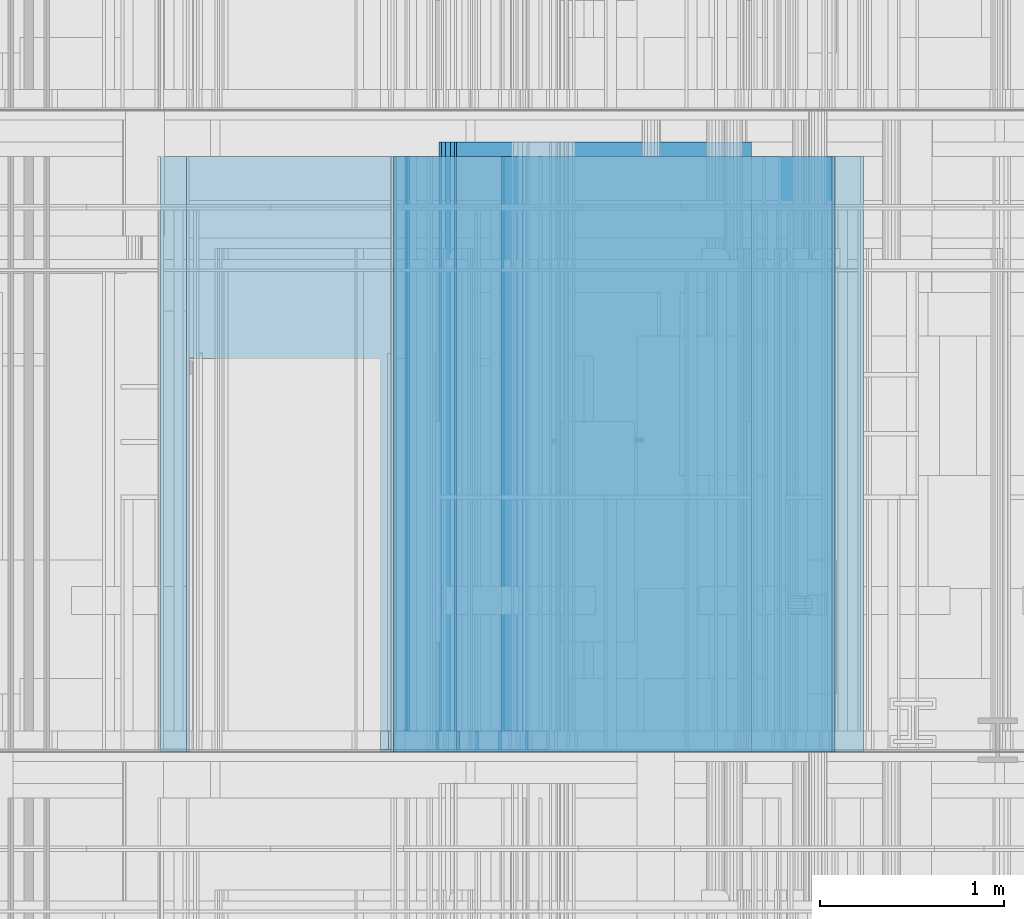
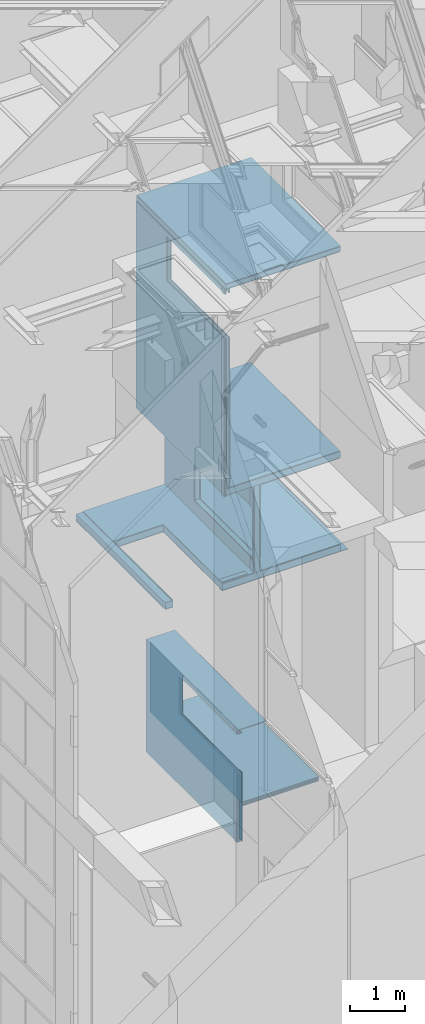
# One storey, part 78 of 583: 33 building element parts, 7 openings, 8 elements without a shape of their own.
"""IFC2X3 building model written with IfcOpenShell, lengths in metres."""

import ifcopenshell
import ifcopenshell.guid

model = None  # the IFC model being written
_history = None  # IfcOwnerHistory: only IFC2X3 demands one
_inside = {}  # id of a spatial element -> (the spatial element, [elements in it])
_under = {}  # id of a project, library or spatial element -> (it, [spatial elements below it])
_declared = {}  # id of a project -> (the project, [libraries it declares])
_typed = {}  # id of a type object -> (the type object, [elements of that type])
_made_of = {}  # id of a material, layer set ... -> (it, [elements and type objects made of it])


def new_model(schema):
    """Start an empty IFC model of exactly this schema.

    Asked for "IFC4X3", IfcOpenShell would pick the latest addendum, in which some entities
    have other attributes; the version numbers below select the first issue.
    IFC2X3 requires an IfcOwnerHistory on every rooted entity: one is made here for all.
    """
    global model, _history
    if schema == "IFC4X3":
        model = ifcopenshell.file(schema_version=(4, 3, 0, 0))
    else:
        model = ifcopenshell.file(schema=schema)
    _inside.clear()
    _under.clear()
    _declared.clear()
    _typed.clear()
    _made_of.clear()
    _history = None
    if model.schema == "IFC2X3":
        org = make("IfcOrganization", Name="unknown")
        user = make(
            "IfcPersonAndOrganization",
            ThePerson=make("IfcPerson", FamilyName="unknown"),
            TheOrganization=org,
        )
        app = make(
            "IfcApplication",
            ApplicationDeveloper=org,
            Version="unknown",
            ApplicationFullName="unknown",
            ApplicationIdentifier="unknown",
        )
        _history = make(
            "IfcOwnerHistory",
            OwningUser=user,
            OwningApplication=app,
            ChangeAction="ADDED",
            CreationDate=0,
        )
    return model


def make(cls, **values):
    """One entity of the class cls with the attributes given. An attribute that is None is left unset."""
    return model.create_entity(
        cls, **{name: value for name, value in values.items() if value is not None}
    )


def entity(cls, *values):
    """Any entity or typed value of the class cls, its attributes in the order of the schema. None: left unset."""
    e = model.create_entity(cls)
    for i, value in enumerate(values):
        if value is not None:
            e[i] = value
    return e


def rooted(cls, **values):
    """An entity with a GlobalId (a new one), such as an element, a storey or a relation."""
    return make(cls, GlobalId=ifcopenshell.guid.new(), OwnerHistory=_history, **values)


def si_unit(unit_type, name, prefix=None):
    """IfcSIUnit, for example si_unit("LENGTHUNIT", "METRE", prefix="MILLI")."""
    return make("IfcSIUnit", UnitType=unit_type, Prefix=prefix, Name=name)


def converted_unit(unit_type, name, factor, base, dimensions=None, offset=None):
    """IfcConversionBasedUnit, such as the inch: factor (a typed value) times the base unit."""
    return make(
        "IfcConversionBasedUnit"
        if offset is None
        else "IfcConversionBasedUnitWithOffset",
        ConversionOffset=offset,
        Dimensions=None
        if dimensions is None
        else entity("IfcDimensionalExponents", *dimensions),
        UnitType=unit_type,
        Name=name,
        ConversionFactor=make(
            "IfcMeasureWithUnit", ValueComponent=factor, UnitComponent=base
        ),
    )


def derived_unit(unit_type, elements):
    """IfcDerivedUnit: a product of units, each with its exponent."""
    return make(
        "IfcDerivedUnit",
        Elements=[
            make("IfcDerivedUnitElement", Unit=unit, Exponent=power)
            for unit, power in elements
        ],
        UnitType=unit_type,
    )


def money_unit(currency):
    """IfcMonetaryUnit."""
    return make("IfcMonetaryUnit", Currency=currency)


def assignment(units):
    """IfcUnitAssignment: the units of a project."""
    return None if units is None else make("IfcUnitAssignment", Units=units)


def point(xyz):
    """IfcCartesianPoint."""
    return None if xyz is None else make("IfcCartesianPoint", Coordinates=xyz)


def direction(xyz):
    """IfcDirection."""
    return None if xyz is None else make("IfcDirection", DirectionRatios=xyz)


def frame(location, z_axis=None, x_axis=None):
    """IfcAxis2Placement3D, a coordinate frame: its origin and axes. An axis left out is left unset."""
    return make(
        "IfcAxis2Placement3D",
        Location=point(location),
        Axis=direction(z_axis),
        RefDirection=direction(x_axis),
    )


def frame_2d(location, x_axis=None):
    """IfcAxis2Placement2D, a coordinate frame in the plane: its origin and x axis."""
    return make(
        "IfcAxis2Placement2D", Location=point(location), RefDirection=direction(x_axis)
    )


def origin_with_axes():
    """The frame at (0, 0, 0) with the z axis (0, 0, 1) and the x axis (1, 0, 0) written out."""
    return frame((0.0, 0.0, 0.0), z_axis=(0.0, 0.0, 1.0), x_axis=(1.0, 0.0, 0.0))


def place(relative_to, where):
    """IfcLocalPlacement: puts the frame where relative to a parent placement (None: the world)."""
    return make(
        "IfcLocalPlacement", PlacementRelTo=relative_to, RelativePlacement=where
    )


def context(
    kind, dimensions, precision=None, world=None, true_north=None, identifier=None
):
    """IfcGeometricRepresentationContext, for example the 3D "Model" context."""
    return make(
        "IfcGeometricRepresentationContext",
        ContextIdentifier=identifier,
        ContextType=kind,
        CoordinateSpaceDimension=dimensions,
        Precision=precision,
        WorldCoordinateSystem=world,
        TrueNorth=true_north,
    )


def subcontext(parent, identifier, kind, view, scale=None):
    """IfcGeometricRepresentationSubContext, for example "Body" below "Model"."""
    return make(
        "IfcGeometricRepresentationSubContext",
        ContextIdentifier=identifier,
        ContextType=kind,
        ParentContext=parent,
        TargetScale=scale,
        TargetView=view,
    )


def project(units=None, contexts=None):
    """IfcProject with its units and contexts."""
    return rooted(
        "IfcProject",
        Name="project",
        RepresentationContexts=contexts,
        UnitsInContext=assignment(units),
    )


def spatial(cls, under=None, at=None, **own):
    """A site, building, storey or space (cls), placed at a placement, below another one or the project."""
    s = rooted(cls, ObjectPlacement=at, **own)
    if under is not None:
        _under.setdefault(under.id(), (under, []))[1].append(s)
    return s


def polyline(points):
    """IfcPolyline through the points."""
    return make("IfcPolyline", Points=[point(p) for p in points])


def profile(cls, at=None, kind="AREA", **sizes):
    """A parametric profile (cls). Its sizes go by their IFC names, for example OverallWidth=200.0."""
    return make(cls, ProfileType=kind, Position=at, **sizes)


def rectangle(**sizes):
    """IfcRectangleProfileDef."""
    return profile("IfcRectangleProfileDef", **sizes)


def outline(outer, holes=None, kind="AREA"):
    """IfcArbitraryClosedProfileDef: a profile drawn as a closed curve; with holes, ...WithVoids."""
    if holes is None:
        return make("IfcArbitraryClosedProfileDef", ProfileType=kind, OuterCurve=outer)
    return make(
        "IfcArbitraryProfileDefWithVoids",
        ProfileType=kind,
        OuterCurve=outer,
        InnerCurves=holes,
    )


def extrude(swept, where, along, depth):
    """IfcExtrudedAreaSolid: the profile swept, set in the frame where, extruded along a direction by depth."""
    return make(
        "IfcExtrudedAreaSolid",
        SweptArea=swept,
        Position=where,
        ExtrudedDirection=direction(along),
        Depth=depth,
    )


def shape(context_of_items, identifier, shape_type, items):
    """IfcShapeRepresentation: the items that make up one representation, for example the "Body"."""
    return make(
        "IfcShapeRepresentation",
        ContextOfItems=context_of_items,
        RepresentationIdentifier=identifier,
        RepresentationType=shape_type,
        Items=items,
    )


def material(Name=None, Category=None):
    """IfcMaterial."""
    return make("IfcMaterial", Name=Name, Category=Category)


def made_of(thing, what):
    """Note that an element or type object is made of a material, layer set ...; save() writes the relation."""
    if what is not None:
        _made_of.setdefault(what.id(), (what, []))[1].append(thing)
    return thing


def type_object(cls, material=None, **own):
    """A type object (cls), such as IfcWallType, which elements share."""
    return made_of(rooted(cls, **own), material)


def element(
    cls,
    number,
    at=None,
    inside=None,
    cuts=None,
    type_object=None,
    material=None,
    context=None,
    identifier="Body",
    shape_type=None,
    held_by="IfcProductDefinitionShape",
    body=None,
    shapes=None,
    **own,
):
    """One element of the class cls, such as IfcWall. Its Tag is "e" and its number.

    at: its placement. inside: the storey or other place that contains it. cuts: it is an
    opening in that element (IfcRelVoidsElement). A single representation is given by context,
    identifier, shape_type and body (its items); several are given by shapes. held_by: the class
    of the entity that holds the representations. save() writes the other relations.
    """
    e = rooted(cls, Tag="e%d" % number, ObjectPlacement=at, **own)
    if body is not None:
        shapes = [shape(context, identifier, shape_type, body)]
    if shapes is not None:
        e.Representation = make(held_by, Representations=shapes)
    if inside is not None:
        _inside.setdefault(inside.id(), (inside, []))[1].append(e)
    if cuts is not None:
        rooted(
            "IfcRelVoidsElement", RelatingBuildingElement=cuts, RelatedOpeningElement=e
        )
    if type_object is not None:
        _typed.setdefault(type_object.id(), (type_object, []))[1].append(e)
    return made_of(e, material)


def aggregate(whole, parts):
    """IfcRelAggregates: a whole, such as a stair, and the parts it consists of."""
    return rooted("IfcRelAggregates", RelatingObject=whole, RelatedObjects=parts)


def save(model, path):
    """Write the relations noted so far, then the file.

    IfcRelAggregates (storeys below a building ...), IfcRelContainedInSpatialStructure (elements
    in a storey), IfcRelDefinesByType, IfcRelAssociatesMaterial and IfcRelDeclares: one each for
    every whole, place, type object, material and project.
    """
    for whole, parts in _under.values():
        aggregate(whole, parts)
    for where, things in _inside.values():
        rooted(
            "IfcRelContainedInSpatialStructure",
            RelatedElements=things,
            RelatingStructure=where,
        )
    for kind, things in _typed.values():
        rooted("IfcRelDefinesByType", RelatedObjects=things, RelatingType=kind)
    for what, things in _made_of.values():
        rooted("IfcRelAssociatesMaterial", RelatedObjects=things, RelatingMaterial=what)
    for by, libraries in _declared.values():
        rooted("IfcRelDeclares", RelatingContext=by, RelatedDefinitions=libraries)
    model.write(path)


model = new_model("IFC2X3")

# Units and contexts
model_context = context("Model", 3, precision=1e-05, world=origin_with_axes(), true_north=direction((0.0, 1.0)))
body_context = subcontext(model_context, "Body", "Model", "MODEL_VIEW", scale=1.0)
ifc_project = project(units=[si_unit("LENGTHUNIT", "METRE"), si_unit("AREAUNIT", "SQUARE_METRE"), si_unit("VOLUMEUNIT", "CUBIC_METRE"), si_unit("ABSORBEDDOSEUNIT", "GRAY"), si_unit("AMOUNTOFSUBSTANCEUNIT", "MOLE"), si_unit("DOSEEQUIVALENTUNIT", "SIEVERT"), si_unit("ELECTRICCAPACITANCEUNIT", "FARAD"), si_unit("ELECTRICCHARGEUNIT", "COULOMB"), si_unit("ELECTRICCONDUCTANCEUNIT", "SIEMENS"), si_unit("ELECTRICCURRENTUNIT", "AMPERE"), si_unit("ELECTRICRESISTANCEUNIT", "OHM"), si_unit("ELECTRICVOLTAGEUNIT", "VOLT"), si_unit("ENERGYUNIT", "JOULE"), si_unit("FORCEUNIT", "NEWTON"), si_unit("FREQUENCYUNIT", "HERTZ"), si_unit("ILLUMINANCEUNIT", "LUX"), si_unit("INDUCTANCEUNIT", "HENRY"), si_unit("LUMINOUSFLUXUNIT", "LUMEN"), si_unit("LUMINOUSINTENSITYUNIT", "CANDELA"), si_unit("MAGNETICFLUXDENSITYUNIT", "TESLA"), si_unit("MAGNETICFLUXUNIT", "WEBER"), si_unit("MASSUNIT", "GRAM"), converted_unit("PLANEANGLEUNIT", "degree", entity("IfcReal", 0.0174532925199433), si_unit("PLANEANGLEUNIT", "RADIAN"), dimensions=[0, 0, 0, 0, 0, 0, 0]), si_unit("POWERUNIT", "WATT"), si_unit("PRESSUREUNIT", "PASCAL"), si_unit("RADIOACTIVITYUNIT", "BECQUEREL"), si_unit("SOLIDANGLEUNIT", "STERADIAN"), si_unit("THERMODYNAMICTEMPERATUREUNIT", "KELVIN"), si_unit("TIMEUNIT", "SECOND"), derived_unit("ACCELERATIONUNIT", [(si_unit("LENGTHUNIT", "METRE"), 1), (si_unit("TIMEUNIT", "SECOND"), -2)]), derived_unit("ANGULARVELOCITYUNIT", [(converted_unit("PLANEANGLEUNIT", "degree", entity("IfcReal", 0.0174532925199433), si_unit("PLANEANGLEUNIT", "RADIAN"), dimensions=[0, 0, 0, 0, 0, 0, 0]), 1), (si_unit("TIMEUNIT", "SECOND"), -1)]), derived_unit("CURVATUREUNIT", [(converted_unit("PLANEANGLEUNIT", "degree", entity("IfcReal", 0.0174532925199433), si_unit("PLANEANGLEUNIT", "RADIAN"), dimensions=[0, 0, 0, 0, 0, 0, 0]), 1), (si_unit("LENGTHUNIT", "METRE"), -1)]), derived_unit("DYNAMICVISCOSITYUNIT", [(si_unit("PRESSUREUNIT", "PASCAL"), 1), (si_unit("TIMEUNIT", "SECOND"), 1)]), derived_unit("HEATFLUXDENSITYUNIT", [(si_unit("POWERUNIT", "WATT"), 1), (si_unit("LENGTHUNIT", "METRE"), -2)]), derived_unit("HEATINGVALUEUNIT", [(si_unit("ENERGYUNIT", "JOULE"), 1), (si_unit("MASSUNIT", "GRAM"), -1)]), derived_unit("INTEGERCOUNTRATEUNIT", [(si_unit("TIMEUNIT", "SECOND"), -1)]), derived_unit("IONCONCENTRATIONUNIT", [(si_unit("MASSUNIT", "GRAM"), 1), (si_unit("VOLUMEUNIT", "CUBIC_METRE"), -1)]), derived_unit("ISOTHERMALMOISTURECAPACITYUNIT", [(si_unit("VOLUMEUNIT", "CUBIC_METRE"), 1), (si_unit("MASSUNIT", "GRAM"), -1)]), derived_unit("KINEMATICVISCOSITYUNIT", [(si_unit("AREAUNIT", "SQUARE_METRE"), 1), (si_unit("TIMEUNIT", "SECOND"), -1)]), derived_unit("LINEARFORCEUNIT", [(si_unit("FORCEUNIT", "NEWTON"), 1), (si_unit("LENGTHUNIT", "METRE"), -1)]), derived_unit("LINEARMOMENTUNIT", [(si_unit("FORCEUNIT", "NEWTON"), 1), (si_unit("LENGTHUNIT", "METRE"), -1)]), derived_unit("LINEARSTIFFNESSUNIT", [(si_unit("FORCEUNIT", "NEWTON"), 1), (si_unit("LENGTHUNIT", "METRE"), -1)]), derived_unit("LINEARVELOCITYUNIT", [(si_unit("LENGTHUNIT", "METRE"), 1), (si_unit("TIMEUNIT", "SECOND"), -1)]), derived_unit("LUMINOUSINTENSITYDISTRIBUTIONUNIT", [(si_unit("LUMINOUSINTENSITYUNIT", "CANDELA"), 1), (si_unit("LUMINOUSFLUXUNIT", "LUMEN"), -1)]), derived_unit("MASSDENSITYUNIT", [(si_unit("MASSUNIT", "GRAM"), 1), (si_unit("VOLUMEUNIT", "CUBIC_METRE"), -1)]), derived_unit("MASSFLOWRATEUNIT", [(si_unit("MASSUNIT", "GRAM"), 1), (si_unit("TIMEUNIT", "SECOND"), -1)]), derived_unit("MASSPERLENGTHUNIT", [(si_unit("MASSUNIT", "GRAM"), 1), (si_unit("LENGTHUNIT", "METRE"), -1)]), derived_unit("MODULUSOFELASTICITYUNIT", [(si_unit("FORCEUNIT", "NEWTON"), 1), (si_unit("AREAUNIT", "SQUARE_METRE"), -1)]), derived_unit("MODULUSOFLINEARSUBGRADEREACTIONUNIT", [(si_unit("FORCEUNIT", "NEWTON"), 1), (si_unit("LENGTHUNIT", "METRE"), -2)]), derived_unit("MODULUSOFROTATIONALSUBGRADEREACTIONUNIT", [(si_unit("FORCEUNIT", "NEWTON"), 1), (si_unit("LENGTHUNIT", "METRE"), 1)]), derived_unit("MODULUSOFSUBGRADEREACTIONUNIT", [(si_unit("FORCEUNIT", "NEWTON"), 1), (si_unit("VOLUMEUNIT", "CUBIC_METRE"), -1)]), derived_unit("MOISTUREDIFFUSIVITYUNIT", [(si_unit("VOLUMEUNIT", "CUBIC_METRE"), 1), (si_unit("TIMEUNIT", "SECOND"), -1)]), derived_unit("MOLECULARWEIGHTUNIT", [(si_unit("MASSUNIT", "GRAM"), 1), (si_unit("AMOUNTOFSUBSTANCEUNIT", "MOLE"), -1)]), derived_unit("PLANARFORCEUNIT", [(si_unit("FORCEUNIT", "NEWTON"), 1), (si_unit("LENGTHUNIT", "METRE"), -2)]), derived_unit("ROTATIONALFREQUENCYUNIT", [(si_unit("TIMEUNIT", "SECOND"), -1)]), derived_unit("ROTATIONALMASSUNIT", [(si_unit("MASSUNIT", "GRAM"), 1), (si_unit("LENGTHUNIT", "METRE"), 2)]), derived_unit("ROTATIONALSTIFFNESSUNIT", [(si_unit("FORCEUNIT", "NEWTON"), 1), (si_unit("LENGTHUNIT", "METRE"), 1), (converted_unit("PLANEANGLEUNIT", "degree", entity("IfcReal", 0.0174532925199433), si_unit("PLANEANGLEUNIT", "RADIAN"), dimensions=[0, 0, 0, 0, 0, 0, 0]), -1)]), derived_unit("SECTIONAREAINTEGRALUNIT", [(si_unit("LENGTHUNIT", "METRE"), 5)]), derived_unit("SECTIONMODULUSUNIT", [(si_unit("LENGTHUNIT", "METRE"), 3)]), derived_unit("SHEARMODULUSUNIT", [(si_unit("FORCEUNIT", "NEWTON"), 1), (si_unit("AREAUNIT", "SQUARE_METRE"), -1)]), derived_unit("SOUNDPOWERUNIT", [(si_unit("ENERGYUNIT", "JOULE"), 1), (si_unit("TIMEUNIT", "SECOND"), -1)]), derived_unit("SPECIFICHEATCAPACITYUNIT", [(si_unit("FORCEUNIT", "NEWTON"), 1), (si_unit("MASSUNIT", "GRAM"), -1), (si_unit("THERMODYNAMICTEMPERATUREUNIT", "KELVIN"), -1)]), derived_unit("TEMPERATUREGRADIENTUNIT", [(si_unit("THERMODYNAMICTEMPERATUREUNIT", "KELVIN"), 1), (si_unit("LENGTHUNIT", "METRE"), -1)]), derived_unit("THERMALADMITTANCEUNIT", [(si_unit("POWERUNIT", "WATT"), 1), (si_unit("AREAUNIT", "SQUARE_METRE"), -1), (si_unit("THERMODYNAMICTEMPERATUREUNIT", "KELVIN"), -1)]), derived_unit("THERMALCONDUCTANCEUNIT", [(si_unit("POWERUNIT", "WATT"), 1), (si_unit("LENGTHUNIT", "METRE"), -1), (si_unit("THERMODYNAMICTEMPERATUREUNIT", "KELVIN"), -1)]), derived_unit("THERMALEXPANSIONCOEFFICIENTUNIT", [(si_unit("THERMODYNAMICTEMPERATUREUNIT", "KELVIN"), -1)]), derived_unit("THERMALRESISTANCEUNIT", [(si_unit("AREAUNIT", "SQUARE_METRE"), 1), (si_unit("POWERUNIT", "WATT"), -1)]), derived_unit("THERMALTRANSMITTANCEUNIT", [(si_unit("POWERUNIT", "WATT"), 1), (si_unit("AREAUNIT", "SQUARE_METRE"), -1), (si_unit("THERMODYNAMICTEMPERATUREUNIT", "KELVIN"), -1)]), derived_unit("TORQUEUNIT", [(si_unit("FORCEUNIT", "NEWTON"), 1), (si_unit("LENGTHUNIT", "METRE"), 1)]), derived_unit("VAPORPERMEABILITYUNIT", [(si_unit("MASSUNIT", "GRAM"), 1), (si_unit("TIMEUNIT", "SECOND"), -1)]), derived_unit("VOLUMETRICFLOWRATEUNIT", [(si_unit("VOLUMEUNIT", "CUBIC_METRE"), 1), (si_unit("TIMEUNIT", "SECOND"), -1)]), derived_unit("WARPINGCONSTANTUNIT", [(si_unit("LENGTHUNIT", "METRE"), 6)]), derived_unit("WARPINGMOMENTUNIT", [(si_unit("FORCEUNIT", "NEWTON"), 1), (si_unit("LENGTHUNIT", "METRE"), 2)]), money_unit("GBP")], contexts=[model_context])

# Site, building, storey
site_placement = place(None, origin_with_axes())
site = spatial("IfcSite", under=ifc_project, at=site_placement, Name="Site", CompositionType="ELEMENT")
building_placement = place(site_placement, origin_with_axes())
building = spatial("IfcBuilding", under=site, at=building_placement, Name="Building01", CompositionType="ELEMENT")
storey_placement = place(building_placement, frame((0.0, 0.0, 20.78), z_axis=(0.0, 0.0, 1.0), x_axis=(1.0, 0.0, 0.0)))
storey = spatial("IfcBuildingStorey", under=building, at=storey_placement, Name="RL", CompositionType="ELEMENT", Elevation=20.78)

# Wall, openings, building element parts
wall_type_1 = type_object("IfcWallType", Name="SHE_A-Walls_Type03a_BlockworkWall_170mm", PredefinedType="NOTDEFINED")
wall_1_placement = place(storey_placement, frame((8.665, 8.64, -11.705), z_axis=(0.0, 1.0, 0.0), x_axis=(-1.0, 0.0, 0.0)))
wall_1 = element("IfcWall", 1, at=wall_1_placement, inside=storey, type_object=wall_type_1, Name="4B", ObjectType="SHE_A-Walls_Type03a_BlockworkWall_170mm")
opening_1_placement = place(wall_1_placement, frame((2.527281, 0.175, 0.0), z_axis=(0.0, 0.0, 1.0), x_axis=(1.0, 0.0, 0.0)))
element("IfcOpeningElement", 2, at=opening_1_placement, cuts=wall_1, Name="Opening", ObjectType="Opening", context=body_context, shape_type="SweptSolid", body=[
    extrude(rectangle(XDim=0.984, YDim=2.142, at=frame_2d((-0.492, 1.071), x_axis=(1.0, 0.0))), frame((0.0, -5.388555, 0.0), z_axis=(0.0, 1.0, 0.0), x_axis=(-1.0, 0.0, 0.0)), (0.0, 0.0, 1.0), 10.777109),
])
opening_2_placement = place(wall_1_placement, frame((2.473, 0.155, 0.0), z_axis=(0.0, 0.0, 1.0), x_axis=(1.0, 0.0, 0.0)))
element("IfcOpeningElement", 3, at=opening_2_placement, cuts=wall_1, Name="Opening", ObjectType="Opening", context=body_context, shape_type="SweptSolid", body=[
    extrude(rectangle(XDim=2.142, YDim=0.984, at=frame_2d((-0.492, 1.071), x_axis=(0.0, -1.0))), frame((0.0, -5.387814, 0.0), z_axis=(0.0, 1.0, 0.0), x_axis=(-1.0, 0.0, 0.0)), (0.0, 0.0, 1.0), 10.775627),
])
ifc_material_1 = material(Name="A_BSUK_WallsInternal_Block")
placement_1 = place(wall_1_placement, origin_with_axes())
building_element_part_1 = element("IfcBuildingElementPart", 4, at=placement_1, material=ifc_material_1, Name="1", context=body_context, shape_type="SweptSolid", body=[
    extrude(rectangle(XDim=3.67, YDim=0.14, at=frame_2d((1.835, 0.07), x_axis=(-1.0, 0.0))), origin_with_axes(), (0.0, 0.0, 1.0), 3.24),
])
ifc_material_2 = material(Name="A_BSUK_Walls_Timber")
building_element_part_2 = element("IfcBuildingElementPart", 5, at=placement_1, material=ifc_material_2, Name="2", context=body_context, shape_type="SweptSolid", body=[
    extrude(outline(polyline([(3.5, 0.17), (1.940919, 0.17), (1.955919, 0.155), (3.5, 0.155), (3.5, 0.17)])), frame((0.0, 0.0, 0.015), z_axis=(0.0, 0.0, 1.0), x_axis=(1.0, 0.0, 0.0)), (0.0, 0.0, 1.0), 0.1),
])
ifc_material_3 = material(Name="A_BSUK_WallInternal_Finishes_Plaster")
building_element_part_3 = element("IfcBuildingElementPart", 6, at=placement_1, material=ifc_material_3, Name="3", context=body_context, shape_type="SweptSolid", body=[
    extrude(rectangle(XDim=1.67, YDim=0.015, at=frame_2d((0.85, 0.1475), x_axis=(-1.0, 0.0))), origin_with_axes(), (0.0, 0.0, 1.0), 3.24),
])
ifc_material_4 = material(Name="A_BSUK_WallInternal_Finishes_Plasterboard")
building_element_part_4 = element("IfcBuildingElementPart", 7, at=placement_1, material=ifc_material_4, Name="4", context=body_context, shape_type="SweptSolid", body=[
    extrude(rectangle(XDim=3.825, YDim=0.015, at=frame_2d((1.7575, -0.0075), x_axis=(-1.0, 0.0))), origin_with_axes(), (0.0, 0.0, 1.0), 3.24),
])
building_element_part_5 = element("IfcBuildingElementPart", 8, at=placement_1, material=ifc_material_2, Name="5", context=body_context, shape_type="SweptSolid", body=[
    extrude(rectangle(XDim=1.883405, YDim=0.015, at=frame_2d((2.503298, -0.0225), x_axis=(-1.0, 0.0))), frame((0.0, 0.0, 0.015), z_axis=(0.0, 0.0, 1.0), x_axis=(1.0, 0.0, 0.0)), (0.0, 0.0, 1.0), 0.1),
])
building_element_part_6 = element("IfcBuildingElementPart", 9, at=placement_1, material=ifc_material_3, Name="6", context=body_context, shape_type="SweptSolid", body=[
    extrude(rectangle(XDim=1.715, YDim=0.015, at=frame_2d((2.6725, 0.1475), x_axis=(-1.0, 0.0))), origin_with_axes(), (0.0, 0.0, 1.0), 3.24),
])
aggregate(wall_1, [building_element_part_1, building_element_part_2, building_element_part_3, building_element_part_4, building_element_part_5, building_element_part_6])

wall_type_2 = type_object("IfcWallType", Name="SHE_A-Walls_Type04a_BlockworkWall_130mm", PredefinedType="NOTDEFINED")
wall_2_placement = place(storey_placement, frame((6.965, 8.64, -9.635), z_axis=(0.0, 1.0, 0.0), x_axis=(0.0, 0.0, -1.0)))
wall_2 = element("IfcWall", 10, at=wall_2_placement, inside=storey, type_object=wall_type_2, Name="4A", ObjectType="SHE_A-Walls_Type04a_BlockworkWall_130mm")
opening_3_placement = place(wall_2_placement, frame((0.553302, 0.286454, 0.03), z_axis=(0.0, 0.0, 1.0), x_axis=(1.0, 0.0, 0.0)))
element("IfcOpeningElement", 11, at=opening_3_placement, cuts=wall_2, Name="Opening", ObjectType="Opening", context=body_context, shape_type="SweptSolid", body=[
    extrude(rectangle(XDim=2.14, YDim=1.08, at=frame_2d((-0.54, 1.07), x_axis=(0.0, -1.0))), frame((0.0, -4.229233, 0.0), z_axis=(0.0, 1.0, 0.0), x_axis=(-1.0, 0.0, 0.0)), (0.0, 0.0, 1.0), 8.458465),
])
opening_4_placement = place(wall_2_placement, frame((0.5, 0.14, 0.03), z_axis=(0.0, 0.0, 1.0), x_axis=(1.0, 0.0, 0.0)))
element("IfcOpeningElement", 12, at=opening_4_placement, cuts=wall_2, Name="Opening", ObjectType="Opening", context=body_context, shape_type="SweptSolid", body=[
    extrude(rectangle(XDim=2.14, YDim=1.08, at=frame_2d((-0.54, 1.07), x_axis=(0.0, -1.0))), frame((0.0, -4.131701, 0.0), z_axis=(0.0, 1.0, 0.0), x_axis=(-1.0, 0.0, 0.0)), (0.0, 0.0, 1.0), 8.263402),
])
placement_2 = place(wall_2_placement, origin_with_axes())
building_element_part_7 = element("IfcBuildingElementPart", 13, at=placement_2, material=ifc_material_1, Name="1", context=body_context, shape_type="SweptSolid", body=[
    extrude(rectangle(XDim=1.93, YDim=0.1, at=frame_2d((0.965, 0.05), x_axis=(-1.0, 0.0))), origin_with_axes(), (0.0, 0.0, 1.0), 3.24),
])
building_element_part_8 = element("IfcBuildingElementPart", 14, at=placement_2, material=ifc_material_2, Name="2", context=body_context, shape_type="SweptSolid", body=[
    extrude(outline(polyline([(1.9, 0.13), (0.03, 0.13), (0.015, 0.115), (1.9, 0.115), (1.9, 0.13)])), frame((0.0, 0.0, 0.015), z_axis=(0.0, 0.0, 1.0), x_axis=(1.0, 0.0, 0.0)), (0.0, 0.0, 1.0), 0.1),
])
building_element_part_9 = element("IfcBuildingElementPart", 15, at=placement_2, material=ifc_material_3, Name="3", context=body_context, shape_type="SweptSolid", body=[
    extrude(outline(polyline([(1.93, 0.115), (0.015, 0.115), (0.0, 0.1), (1.93, 0.1), (1.93, 0.115)])), origin_with_axes(), (0.0, 0.0, 1.0), 3.24),
])
building_element_part_10 = element("IfcBuildingElementPart", 16, at=placement_2, material=ifc_material_4, Name="4", context=body_context, shape_type="SweptSolid", body=[
    extrude(outline(polyline([(1.93, 0.0), (0.0, 0.0), (0.015, -0.015), (1.93, -0.015), (1.93, 0.0)])), origin_with_axes(), (0.0, 0.0, 1.0), 3.24),
])
building_element_part_11 = element("IfcBuildingElementPart", 17, at=placement_2, material=ifc_material_2, Name="5", context=body_context, shape_type="SweptSolid", body=[
    extrude(outline(polyline([(0.0, -0.015), (0.015, -0.03), (1.633302, -0.03), (1.633302, -0.015), (0.0, -0.015)])), frame((0.0, 0.0, 0.015), z_axis=(0.0, 0.0, 1.0), x_axis=(1.0, 0.0, 0.0)), (0.0, 0.0, 1.0), 0.1),
])
aggregate(wall_2, [building_element_part_7, building_element_part_8, building_element_part_9, building_element_part_10, building_element_part_11])

# Wall, building element parts
wall_3_placement = place(storey_placement, frame((6.263, 8.64, -9.635), z_axis=(0.0, 1.0, 0.0), x_axis=(1.0, 0.0, 0.0)))
wall_3 = element("IfcWall", 18, at=wall_3_placement, inside=storey, type_object=wall_type_1, Name="4B", ObjectType="SHE_A-Walls_Type03a_BlockworkWall_170mm")
placement_3 = place(wall_3_placement, origin_with_axes())
building_element_part_12 = element("IfcBuildingElementPart", 19, at=placement_3, material=ifc_material_1, Name="1", context=body_context, shape_type="SweptSolid", body=[
    extrude(rectangle(XDim=2.402, YDim=0.14, at=frame_2d((1.201, -0.07), x_axis=(-1.0, 0.0))), origin_with_axes(), (0.0, 0.0, 1.0), 3.24),
])
building_element_part_13 = element("IfcBuildingElementPart", 20, at=placement_3, material=ifc_material_4, Name="4", context=body_context, shape_type="SweptSolid", body=[
    extrude(rectangle(XDim=2.387, YDim=0.015, at=frame_2d((1.1935, -0.1475), x_axis=(-1.0, 0.0))), origin_with_axes(), (0.0, 0.0, 1.0), 3.24),
])
building_element_part_14 = element("IfcBuildingElementPart", 21, at=placement_3, material=ifc_material_3, Name="6", context=body_context, shape_type="SweptSolid", body=[
    extrude(outline(polyline([(2.387, 0.015), (0.717, 0.015), (0.702, 0.0), (2.387, 0.0), (2.387, 0.015)])), origin_with_axes(), (0.0, 0.0, 1.0), 3.24),
])
aggregate(wall_3, [building_element_part_12, building_element_part_13, building_element_part_14])

wall_type_3 = type_object("IfcWallType", Name="SHE_A-Walls_Type05a_Partition_95mm_tall", PredefinedType="NOTDEFINED")
wall_4_placement = place(storey_placement, frame((6.571475, 8.64, -16.57427), z_axis=(0.0, 1.0, 0.0), x_axis=(1.0, 0.0, 0.0)))
wall_4 = element("IfcWall", 22, at=wall_4_placement, inside=storey, type_object=wall_type_3, Name="5A", ObjectType="SHE_A-Walls_Type05a_Partition_95mm_tall")
ifc_material_5 = material(Name="A_BSUK_Insulation")
placement_4 = place(wall_4_placement, origin_with_axes())
building_element_part_15 = element("IfcBuildingElementPart", 23, at=placement_4, material=ifc_material_5, Name="1", context=body_context, shape_type="SweptSolid", body=[
    extrude(rectangle(XDim=1.639195, YDim=0.025, at=frame_2d((0.819597, 0.0125), x_axis=(-1.0, 0.0))), origin_with_axes(), (0.0, 0.0, 1.0), 3.32),
])
building_element_part_16 = element("IfcBuildingElementPart", 24, at=placement_4, material=ifc_material_4, Name="4", context=body_context, shape_type="SweptSolid", body=[
    extrude(rectangle(XDim=1.604195, YDim=0.012, at=frame_2d((0.837097, 0.054), x_axis=(-1.0, 0.0))), origin_with_axes(), (0.0, 0.0, 1.0), 3.32),
])
building_element_part_17 = element("IfcBuildingElementPart", 25, at=placement_4, material=ifc_material_4, Name="5", context=body_context, shape_type="SweptSolid", body=[
    extrude(rectangle(XDim=1.604195, YDim=0.012, at=frame_2d((0.837097, -0.029), x_axis=(-1.0, 0.0))), origin_with_axes(), (0.0, 0.0, 1.0), 3.32),
])
aggregate(wall_4, [building_element_part_15, building_element_part_16, building_element_part_17])

wall_5_placement = place(storey_placement, frame((8.665, 8.64, -5.065), z_axis=(0.0, 1.0, 0.0), x_axis=(-1.0, 0.0, 0.0)))
wall_5 = element("IfcWall", 26, at=wall_5_placement, inside=storey, type_object=wall_type_2, Name="4A", ObjectType="SHE_A-Walls_Type04a_BlockworkWall_130mm")
placement_5 = place(wall_5_placement, origin_with_axes())
building_element_part_18 = element("IfcBuildingElementPart", 27, at=placement_5, material=ifc_material_1, Name="1", context=body_context, shape_type="SweptSolid", body=[
    extrude(rectangle(XDim=0.1, YDim=2.4, at=frame_2d((1.2, 0.05), x_axis=(0.0, -1.0))), origin_with_axes(), (0.0, 0.0, 1.0), 3.24),
])
building_element_part_19 = element("IfcBuildingElementPart", 28, at=placement_5, material=ifc_material_3, Name="3", context=body_context, shape_type="SweptSolid", body=[
    extrude(rectangle(XDim=0.015, YDim=2.4, at=frame_2d((1.2, 0.1075), x_axis=(0.0, -1.0))), origin_with_axes(), (0.0, 0.0, 1.0), 3.24),
])
building_element_part_20 = element("IfcBuildingElementPart", 29, at=placement_5, material=ifc_material_4, Name="4", context=body_context, shape_type="SweptSolid", body=[
    extrude(rectangle(XDim=2.385, YDim=0.015, at=frame_2d((1.2075, -0.0075), x_axis=(-1.0, 0.0))), origin_with_axes(), (0.0, 0.0, 1.0), 3.24),
])
aggregate(wall_5, [building_element_part_18, building_element_part_19, building_element_part_20])

# Wall, openings, building element parts
wall_6_placement = place(storey_placement, frame((6.571475, 8.64, -14.950331), z_axis=(0.0, 1.0, 0.0), x_axis=(0.0, 0.0, -1.0)))
wall_6 = element("IfcWall", 30, at=wall_6_placement, inside=storey, type_object=wall_type_3, Name="5A", ObjectType="SHE_A-Walls_Type05a_Partition_95mm_tall")
opening_5_placement = place(wall_6_placement, frame((0.058581, -0.115, -0.015), z_axis=(0.0, 0.0, 1.0), x_axis=(1.0, 0.0, 0.0)))
element("IfcOpeningElement", 31, at=opening_5_placement, cuts=wall_6, Name="Opening", ObjectType="Opening", context=body_context, shape_type="SweptSolid", body=[
    extrude(rectangle(XDim=0.834, YDim=2.142, at=frame_2d((0.417, 1.071), x_axis=(-1.0, 0.0))), frame((0.0, 0.21, 0.0), z_axis=(0.0, -1.0, 0.0), x_axis=(1.0, 0.0, 0.0)), (0.0, 0.0, 1.0), 0.42),
])
opening_6_placement = place(wall_6_placement, frame((0.108581, -0.035, 0.0), z_axis=(0.0, 0.0, 1.0), x_axis=(1.0, 0.0, 0.0)))
element("IfcOpeningElement", 32, at=opening_6_placement, cuts=wall_6, Name="Opening", ObjectType="Opening", context=body_context, shape_type="SweptSolid", body=[
    extrude(rectangle(XDim=2.142, YDim=0.834, at=frame_2d((0.417, 1.071), x_axis=(0.0, -1.0))), frame((0.0, 0.09, 0.0), z_axis=(0.0, -1.0, 0.0), x_axis=(1.0, 0.0, 0.0)), (0.0, 0.0, 1.0), 0.18),
])
placement_6 = place(wall_6_placement, origin_with_axes())
building_element_part_21 = element("IfcBuildingElementPart", 33, at=placement_6, material=ifc_material_5, Name="1", context=body_context, shape_type="SweptSolid", body=[
    extrude(rectangle(XDim=0.025, YDim=2.458939, at=frame_2d((1.229469, 0.0125), x_axis=(0.0, -1.0))), origin_with_axes(), (0.0, 0.0, 1.0), 3.32),
])
building_element_part_22 = element("IfcBuildingElementPart", 34, at=placement_6, material=ifc_material_2, Name="2", context=body_context, shape_type="SweptSolid", body=[
    extrude(outline(polyline([(-0.05, 0.075), (-0.035, 0.06), (2.458939, 0.06), (2.458939, 0.075), (-0.05, 0.075)])), frame((0.0, 0.0, 0.015), z_axis=(0.0, 0.0, 1.0), x_axis=(1.0, 0.0, 0.0)), (0.0, 0.0, 1.0), 0.1),
])
building_element_part_23 = element("IfcBuildingElementPart", 35, at=placement_6, material=ifc_material_2, Name="3", context=body_context, shape_type="SweptSolid", body=[
    extrude(outline(polyline([(1.588939, -0.035), (0.06, -0.035), (0.075, -0.05), (1.588939, -0.05), (1.588939, -0.035)])), frame((0.0, 0.0, 0.015), z_axis=(0.0, 0.0, 1.0), x_axis=(1.0, 0.0, 0.0)), (0.0, 0.0, 1.0), 0.1),
])
building_element_part_24 = element("IfcBuildingElementPart", 36, at=placement_6, material=ifc_material_2, Name="4", context=body_context, shape_type="SweptSolid", body=[
    extrude(outline(polyline([(0.06, -0.035), (0.075, -0.05), (2.458939, -0.05), (2.458939, -0.035), (0.06, -0.035)])), frame((0.0, 0.0, 0.015), z_axis=(0.0, 0.0, 1.0), x_axis=(1.0, 0.0, 0.0)), (0.0, 0.0, 1.0), 0.1),
])
building_element_part_25 = element("IfcBuildingElementPart", 37, at=placement_6, material=ifc_material_4, Name="5", context=body_context, shape_type="SweptSolid", body=[
    extrude(outline(polyline([(-0.035, 0.06), (-0.023, 0.048), (2.458939, 0.048), (2.458939, 0.06), (-0.035, 0.06)])), origin_with_axes(), (0.0, 0.0, 1.0), 3.32),
])
building_element_part_26 = element("IfcBuildingElementPart", 38, at=placement_6, material=ifc_material_4, Name="6", context=body_context, shape_type="SweptSolid", body=[
    extrude(outline(polyline([(1.600939, -0.023), (0.048, -0.023), (0.06, -0.035), (1.600939, -0.035), (1.600939, -0.023)])), origin_with_axes(), (0.0, 0.0, 1.0), 3.32),
])
building_element_part_27 = element("IfcBuildingElementPart", 39, at=placement_6, material=ifc_material_4, Name="7", context=body_context, shape_type="SweptSolid", body=[
    extrude(outline(polyline([(0.048, -0.023), (0.06, -0.035), (2.458939, -0.035), (2.458939, -0.023), (0.048, -0.023)])), origin_with_axes(), (0.0, 0.0, 1.0), 3.32),
])
aggregate(wall_6, [building_element_part_21, building_element_part_22, building_element_part_23, building_element_part_24, building_element_part_25, building_element_part_26, building_element_part_27])

# Wall, building element part
wall_7_placement = place(storey_placement, frame((6.571475, 8.64, -14.975331), z_axis=(0.0, 1.0, 0.0), x_axis=(1.0, 0.0, 0.0)))
wall_7 = element("IfcWall", 40, at=wall_7_placement, inside=storey, type_object=wall_type_3, Name="5A", ObjectType="SHE_A-Walls_Type05a_Partition_95mm_tall")
building_element_part_28_placement = place(wall_7_placement, origin_with_axes())
building_element_part_28 = element("IfcBuildingElementPart", 41, at=building_element_part_28_placement, material=ifc_material_4, Name="4", context=body_context, shape_type="SweptSolid", body=[
    extrude(outline(polyline([(0.552, -0.048), (-0.048, -0.048), (-0.06, -0.06), (0.54, -0.06), (0.552, -0.048)])), origin_with_axes(), (0.0, 0.0, 1.0), 3.32),
])
aggregate(wall_7, [building_element_part_28])

# Wall, opening, building element parts
wall_type_4 = type_object("IfcWallType", Name="SHE_A-Walls_Type03c_Firewall_F120_100mm", PredefinedType="NOTDEFINED")
wall_8_placement = place(storey_placement, frame((6.25, 8.655, -9.665), z_axis=(0.0, 1.0, 0.0), x_axis=(0.0, 0.0, 1.0)))
wall_8 = element("IfcWall", 42, at=wall_8_placement, inside=storey, type_object=wall_type_4, Name="3C", ObjectType="SHE_A-Walls_Type03c_Firewall_F120_100mm")
opening_7_placement = place(wall_8_placement, frame((3.501, 0.2, -0.03), z_axis=(0.0, 0.0, 1.0), x_axis=(1.0, 0.0, 0.0)))
element("IfcOpeningElement", 43, at=opening_7_placement, cuts=wall_8, Name="Opening", ObjectType="Opening", context=body_context, shape_type="SweptSolid", body=[
    extrude(rectangle(XDim=0.984, YDim=2.142, at=frame_2d((-0.492, 1.071), x_axis=(1.0, 0.0))), frame((0.0, -5.384541, 0.0), z_axis=(0.0, 1.0, 0.0), x_axis=(-1.0, 0.0, 0.0)), (0.0, 0.0, 1.0), 10.769082),
])
placement_7 = place(wall_8_placement, origin_with_axes())
building_element_part_29 = element("IfcBuildingElementPart", 44, at=placement_7, material=ifc_material_2, Name="1", context=body_context, shape_type="SweptSolid", body=[
    extrude(outline(polyline([(4.585, 0.0), (0.0, 0.0), (0.0, -0.015), (4.57, -0.015), (4.585, 0.0)])), origin_with_axes(), (0.0, 0.0, 1.0), 0.1),
])
building_element_part_30 = element("IfcBuildingElementPart", 45, at=placement_7, material=ifc_material_4, Name="2", context=body_context, shape_type="SweptSolid", body=[
    extrude(rectangle(XDim=4.57, YDim=0.013, at=frame_2d((2.3, 0.0065), x_axis=(-1.0, 0.0))), frame((0.0, 0.0, -0.015), z_axis=(0.0, 0.0, 1.0), x_axis=(1.0, 0.0, 0.0)), (0.0, 0.0, 1.0), 3.24),
])
building_element_part_31 = element("IfcBuildingElementPart", 46, at=placement_7, material=ifc_material_4, Name="3", context=body_context, shape_type="SweptSolid", body=[
    extrude(rectangle(XDim=4.4, YDim=0.013, at=frame_2d((2.385, 0.0935), x_axis=(-1.0, 0.0))), frame((0.0, 0.0, -0.015), z_axis=(0.0, 0.0, 1.0), x_axis=(1.0, 0.0, 0.0)), (0.0, 0.0, 1.0), 3.24),
])
building_element_part_32 = element("IfcBuildingElementPart", 47, at=placement_7, material=ifc_material_4, Name="4", context=body_context, shape_type="SweptSolid", body=[
    extrude(rectangle(XDim=4.4, YDim=0.012, at=frame_2d((2.385, 0.019), x_axis=(-1.0, 0.0))), frame((0.0, 0.0, -0.015), z_axis=(0.0, 0.0, 1.0), x_axis=(1.0, 0.0, 0.0)), (0.0, 0.0, 1.0), 3.24),
])
building_element_part_33 = element("IfcBuildingElementPart", 48, at=placement_7, material=ifc_material_4, Name="5", context=body_context, shape_type="SweptSolid", body=[
    extrude(rectangle(XDim=4.4, YDim=0.012, at=frame_2d((2.385, 0.081), x_axis=(-1.0, 0.0))), frame((0.0, 0.0, -0.015), z_axis=(0.0, 0.0, 1.0), x_axis=(1.0, 0.0, 0.0)), (0.0, 0.0, 1.0), 3.24),
])
aggregate(wall_8, [building_element_part_29, building_element_part_30, building_element_part_31, building_element_part_32, building_element_part_33])

save(model, "model.ifc")
